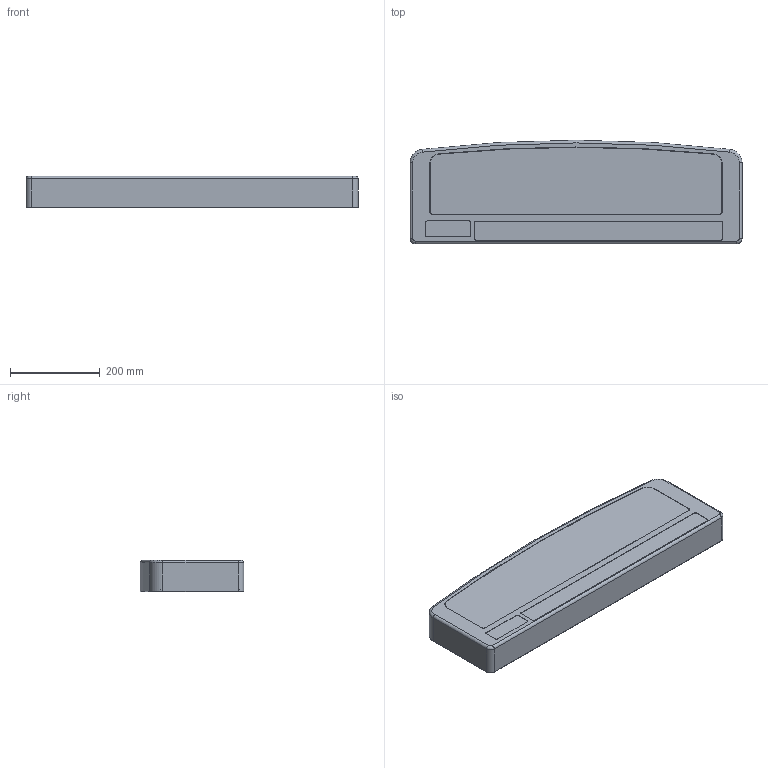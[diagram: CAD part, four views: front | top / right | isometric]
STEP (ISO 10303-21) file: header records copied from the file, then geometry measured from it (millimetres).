
FILE_DESCRIPTION(('Open CASCADE Model'),'2;1');
FILE_NAME('Open CASCADE Shape Model','2026-09-26T16:24:16',('Author'),( 'Open CASCADE'),'Open CASCADE STEP processor 7.9','Open CASCADE 7.9' ,'Unknown');
FILE_SCHEMA(('AUTOMOTIVE_DESIGN { 1 0 10303 214 1 1 1 1 }'));
Length unit declared in the file: millimetre
Products named in the file (4): HSS0130_PHOTO_ESTIMATE_v1; shell_ESTIMATE; bottom_ESTIMATE; panel_blank_ESTIMATE
Assembly tree (3 placements, depth 2):
  HSS0130_PHOTO_ESTIMATE_v1
    shell_ESTIMATE
    bottom_ESTIMATE
    panel_blank_ESTIMATE
Bounding box: 738 x 230 x 70 mm (x, y, z)
Volume: 2375472.3 mm3; surface area: 928302.2 mm2
Topology: 3 solids, 3 shells, 105 faces, 266 edges, 172 vertices
Faces by surface type: cylinder 55, plane 40, torus 8, revolution 2
Full cylindrical faces by diameter (mm): 4.2 x8
Entity records: 6870 total; most frequent: CARTESIAN_POINT 1241, DIRECTION 1115, LINE 576, VECTOR 576, ORIENTED_EDGE 532, PCURVE 532, DEFINITIONAL_REPRESENTATION 532, EDGE_CURVE 266
